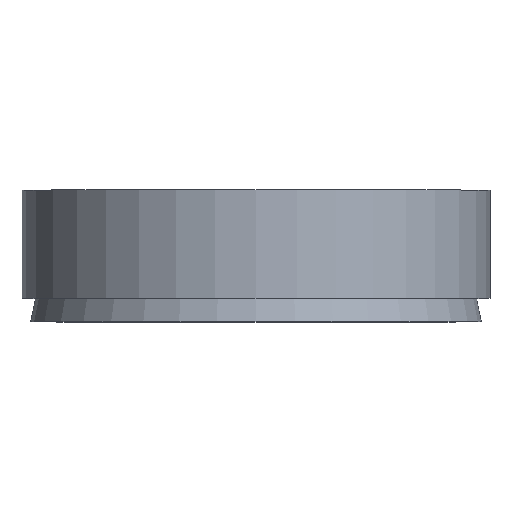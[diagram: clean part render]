
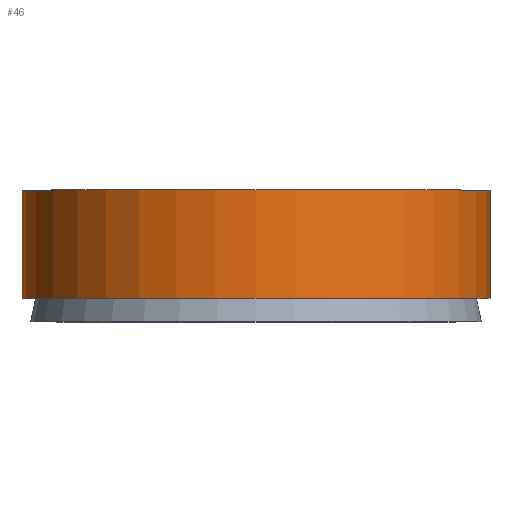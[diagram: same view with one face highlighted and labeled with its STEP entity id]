
A CAD part, top view. The second image highlights one B-rep face of the part: STEP entity #46.
In plain terms, the highlighted cylindrical face has radius 8 mm (diameter 16 mm), a full revolution.
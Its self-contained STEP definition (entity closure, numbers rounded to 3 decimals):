
#46 = ADVANCED_FACE( '', ( #93, #94 ), #95, .T. );
#93 = FACE_OUTER_BOUND( '', #132, .T. );
#94 = FACE_OUTER_BOUND( '', #133, .T. );
#95 = CYLINDRICAL_SURFACE( '', #134, 8. );
#132 = EDGE_LOOP( '', ( #179 ) );
#133 = EDGE_LOOP( '', ( #180 ) );
#134 = AXIS2_PLACEMENT_3D( '', #181, #182, #183 );
#179 = ORIENTED_EDGE( '', *, *, #189, .F. );
#180 = ORIENTED_EDGE( '', *, *, #198, .T. );
#181 = CARTESIAN_POINT( '', ( 0., -60., 0. ) );
#182 = DIRECTION( '', ( 0., 1., 0. ) );
#183 = DIRECTION( '', ( 0., 0., -1. ) );
#189 = EDGE_CURVE( '', #208, #208, #209, .T. );
#198 = EDGE_CURVE( '', #221, #221, #222, .T. );
#208 = VERTEX_POINT( '', #232 );
#209 = CIRCLE( '', #233, 8. );
#221 = VERTEX_POINT( '', #245 );
#222 = CIRCLE( '', #246, 8. );
#232 = CARTESIAN_POINT( '', ( 0., 0.8, -8. ) );
#233 = AXIS2_PLACEMENT_3D( '', #257, #258, #259 );
#245 = CARTESIAN_POINT( '', ( 0., 4.5, -8. ) );
#246 = AXIS2_PLACEMENT_3D( '', #269, #270, #271 );
#257 = CARTESIAN_POINT( '', ( 0., 0.8, 0. ) );
#258 = DIRECTION( '', ( 0., -1., 0. ) );
#259 = DIRECTION( '', ( 0., 0., -1. ) );
#269 = CARTESIAN_POINT( '', ( 0., 4.5, 0. ) );
#270 = DIRECTION( '', ( 0., -1., 0. ) );
#271 = DIRECTION( '', ( 0., 0., -1. ) );
